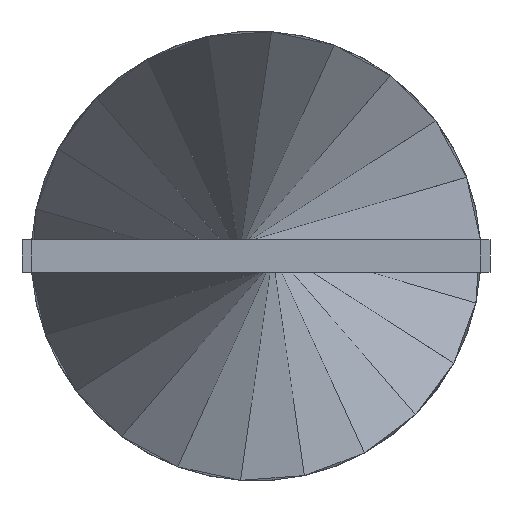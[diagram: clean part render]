
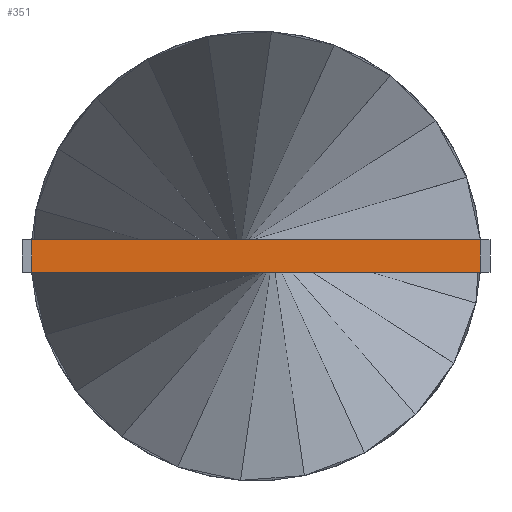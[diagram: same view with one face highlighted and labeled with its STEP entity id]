
A CAD part, front view. The second image highlights one B-rep face of the part: STEP entity #351.
In plain terms, the highlighted planar face has unit normal (0, -1, 0).
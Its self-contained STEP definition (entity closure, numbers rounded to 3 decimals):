
#75 = EDGE_LOOP ( 'NONE', ( #825, #671, #189, #167 ) ) ;
#82 = LINE ( 'NONE', #305, #1496 ) ;
#167 = ORIENTED_EDGE ( 'NONE', *, *, #601, .T. ) ;
#189 = ORIENTED_EDGE ( 'NONE', *, *, #879, .F. ) ;
#222 = VECTOR ( 'NONE', #1192, 1000. ) ;
#239 = VERTEX_POINT ( 'NONE', #535 ) ;
#240 = FACE_OUTER_BOUND ( 'NONE', #75, .T. ) ;
#247 = DIRECTION ( 'NONE',  ( 0., 0., -1. ) ) ;
#251 = VECTOR ( 'NONE', #1328, 1000. ) ;
#305 = CARTESIAN_POINT ( 'NONE',  ( -6.9, 0., -0.5 ) ) ;
#318 = LINE ( 'NONE', #1078, #222 ) ;
#351 = ADVANCED_FACE ( 'NONE', ( #240 ), #1358, .T. ) ;
#451 = DIRECTION ( 'NONE',  ( 0., 0., 1. ) ) ;
#464 = EDGE_CURVE ( 'NONE', #1320, #1141, #524, .T. ) ;
#524 = LINE ( 'NONE', #1245, #1381 ) ;
#535 = CARTESIAN_POINT ( 'NONE',  ( -6.9, 0., -0.5 ) ) ;
#554 = EDGE_CURVE ( 'NONE', #782, #1141, #318, .T. ) ;
#601 = EDGE_CURVE ( 'NONE', #239, #782, #642, .T. ) ;
#642 = LINE ( 'NONE', #1186, #251 ) ;
#671 = ORIENTED_EDGE ( 'NONE', *, *, #464, .F. ) ;
#782 = VERTEX_POINT ( 'NONE', #928 ) ;
#812 = CARTESIAN_POINT ( 'NONE',  ( -6.9, 0., -0.5 ) ) ;
#825 = ORIENTED_EDGE ( 'NONE', *, *, #554, .T. ) ;
#879 = EDGE_CURVE ( 'NONE', #239, #1320, #82, .T. ) ;
#928 = CARTESIAN_POINT ( 'NONE',  ( 6.9, 0., -0.5 ) ) ;
#1067 = AXIS2_PLACEMENT_3D ( 'NONE', #812, #1225, #247 ) ;
#1078 = CARTESIAN_POINT ( 'NONE',  ( 6.9, 0., -0.5 ) ) ;
#1141 = VERTEX_POINT ( 'NONE', #1450 ) ;
#1186 = CARTESIAN_POINT ( 'NONE',  ( -6.9, 0., -0.5 ) ) ;
#1192 = DIRECTION ( 'NONE',  ( 0., 0., 1. ) ) ;
#1225 = DIRECTION ( 'NONE',  ( 0., -1., 0. ) ) ;
#1245 = CARTESIAN_POINT ( 'NONE',  ( -6.9, 0., 0.5 ) ) ;
#1257 = DIRECTION ( 'NONE',  ( 1., 0., 0. ) ) ;
#1272 = CARTESIAN_POINT ( 'NONE',  ( -6.9, 0., 0.5 ) ) ;
#1320 = VERTEX_POINT ( 'NONE', #1272 ) ;
#1328 = DIRECTION ( 'NONE',  ( 1., 0., 0. ) ) ;
#1358 = PLANE ( 'NONE',  #1067 ) ;
#1381 = VECTOR ( 'NONE', #1257, 1000. ) ;
#1450 = CARTESIAN_POINT ( 'NONE',  ( 6.9, 0., 0.5 ) ) ;
#1496 = VECTOR ( 'NONE', #451, 1000. ) ;
